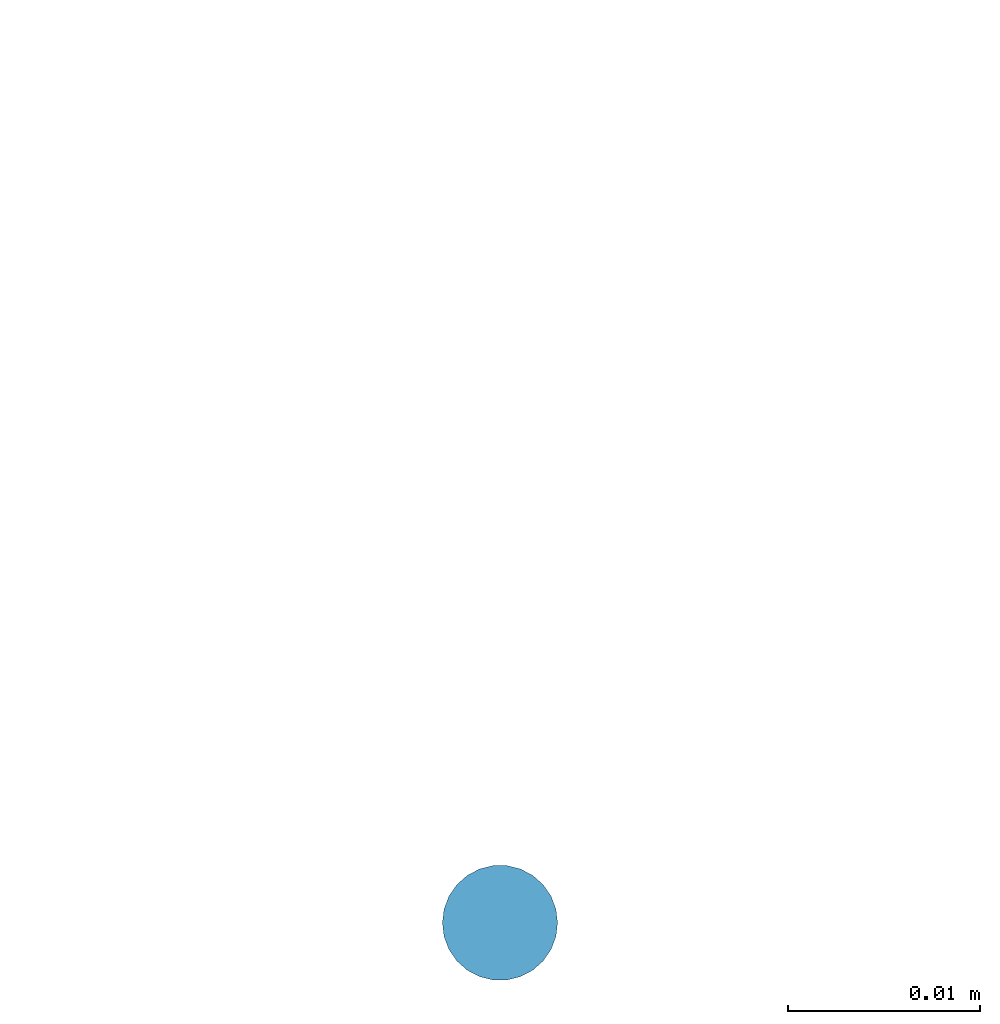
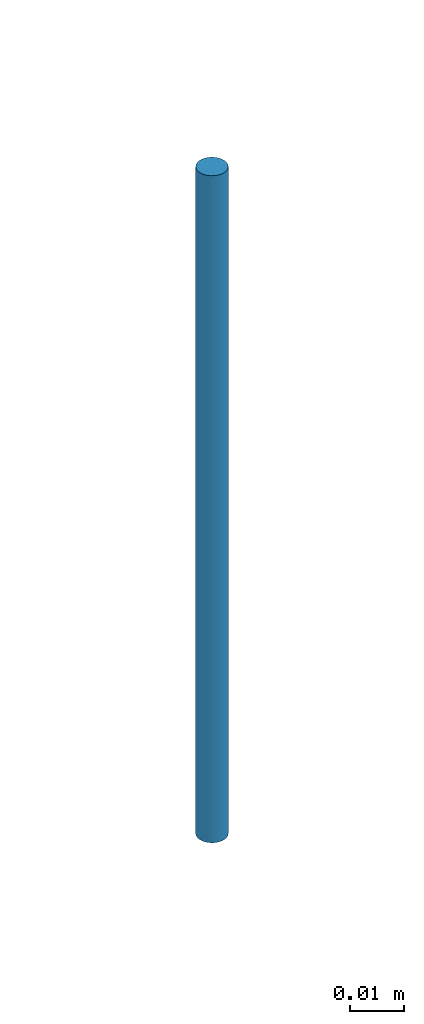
# One storey, part 4 of 6: 1 reinforcing bar.
"""IFC2X3 building model written with IfcOpenShell, lengths in centimetres."""

from ifc_helpers import new_model, entity, si_unit, converted_unit, derived_unit, direction, frame, origin, place, context, subcontext, project, spatial, element, save


model = new_model("IFC2X3")

# Units and contexts
model_context = context("Model", 3, precision=0.001, world=origin(), true_north=direction((6.12303176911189e-17, 1.0)))
body_context = subcontext(model_context, "Body", "Model", "MODEL_VIEW")
ifc_project = project(units=[si_unit("LENGTHUNIT", "METRE", prefix="CENTI"), si_unit("AREAUNIT", "SQUARE_METRE"), si_unit("VOLUMEUNIT", "CUBIC_METRE"), converted_unit("PLANEANGLEUNIT", "DEGREE", entity("IfcRatioMeasure", 0.0174532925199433), si_unit("PLANEANGLEUNIT", "RADIAN"), dimensions=[0, 0, 0, 0, 0, 0, 0]), si_unit("MASSUNIT", "GRAM", prefix="KILO"), si_unit("TIMEUNIT", "SECOND"), si_unit("FREQUENCYUNIT", "HERTZ"), si_unit("THERMODYNAMICTEMPERATUREUNIT", "DEGREE_CELSIUS"), derived_unit("THERMALTRANSMITTANCEUNIT", [(si_unit("MASSUNIT", "GRAM", prefix="KILO"), 1), (si_unit("THERMODYNAMICTEMPERATUREUNIT", "KELVIN"), -1), (si_unit("TIMEUNIT", "SECOND"), -3)]), derived_unit("VOLUMETRICFLOWRATEUNIT", [(si_unit("LENGTHUNIT", "METRE"), 3), (si_unit("TIMEUNIT", "SECOND"), -1)]), si_unit("ELECTRICCURRENTUNIT", "AMPERE"), si_unit("ELECTRICVOLTAGEUNIT", "VOLT"), si_unit("POWERUNIT", "WATT"), si_unit("FORCEUNIT", "NEWTON"), si_unit("ILLUMINANCEUNIT", "LUX"), si_unit("LUMINOUSFLUXUNIT", "LUMEN"), si_unit("LUMINOUSINTENSITYUNIT", "CANDELA"), derived_unit("USERDEFINED", [(si_unit("MASSUNIT", "GRAM", prefix="KILO"), -1), (si_unit("LENGTHUNIT", "METRE"), -2), (si_unit("TIMEUNIT", "SECOND"), 3), (si_unit("LUMINOUSFLUXUNIT", "LUMEN"), 1)]), derived_unit("LINEARVELOCITYUNIT", [(si_unit("LENGTHUNIT", "METRE"), 1), (si_unit("TIMEUNIT", "SECOND"), -1)]), si_unit("PRESSUREUNIT", "PASCAL"), derived_unit("USERDEFINED", [(si_unit("LENGTHUNIT", "METRE"), -2), (si_unit("MASSUNIT", "GRAM", prefix="KILO"), 1), (si_unit("TIMEUNIT", "SECOND"), -2)])], contexts=[model_context])

# Site, building, storey
site_placement = place(None, origin())
site = spatial("IfcSite", under=ifc_project, at=site_placement, Name="Default", CompositionType="ELEMENT")
building_placement = place(site_placement, origin())
building = spatial("IfcBuilding", under=site, at=building_placement, CompositionType="ELEMENT")
storey_placement = place(building_placement, frame((0.0, 0.0, 544.0)))
storey = spatial("IfcBuildingStorey", under=building, at=storey_placement, Name="R+2", CompositionType="ELEMENT", Elevation=544.0)

# Reinforcing bar
reinforcing_bar_placement = place(storey_placement, origin())
element("IfcReinforcingBar", 1, at=reinforcing_bar_placement, inside=storey, Name="Barre d'armature:HA6 (Fe400) : Forme 00: 3", ObjectType="Barre d'armature:HA6 (Fe400)", BarLength=15.0, BarRole="NOTDEFINED", CrossSectionArea=2.82743338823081e-05, NominalDiameter=0.6, context=body_context, shape_type="AdvancedSweptSolid", body=[
    entity("IfcSweptDiskSolid", entity("IfcCompositeCurve", [entity("IfcCompositeCurveSegment", "CONTINUOUS", True, entity("IfcPolyline", [entity("IfcCartesianPoint", [1788.40259743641, 23210.5753424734, 252.5]), entity("IfcCartesianPoint", [1788.40259743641, 23210.5753424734, 267.5])]))], False), 0.3, None, 0.0, 1.0),
])

save(model, "model.ifc")
